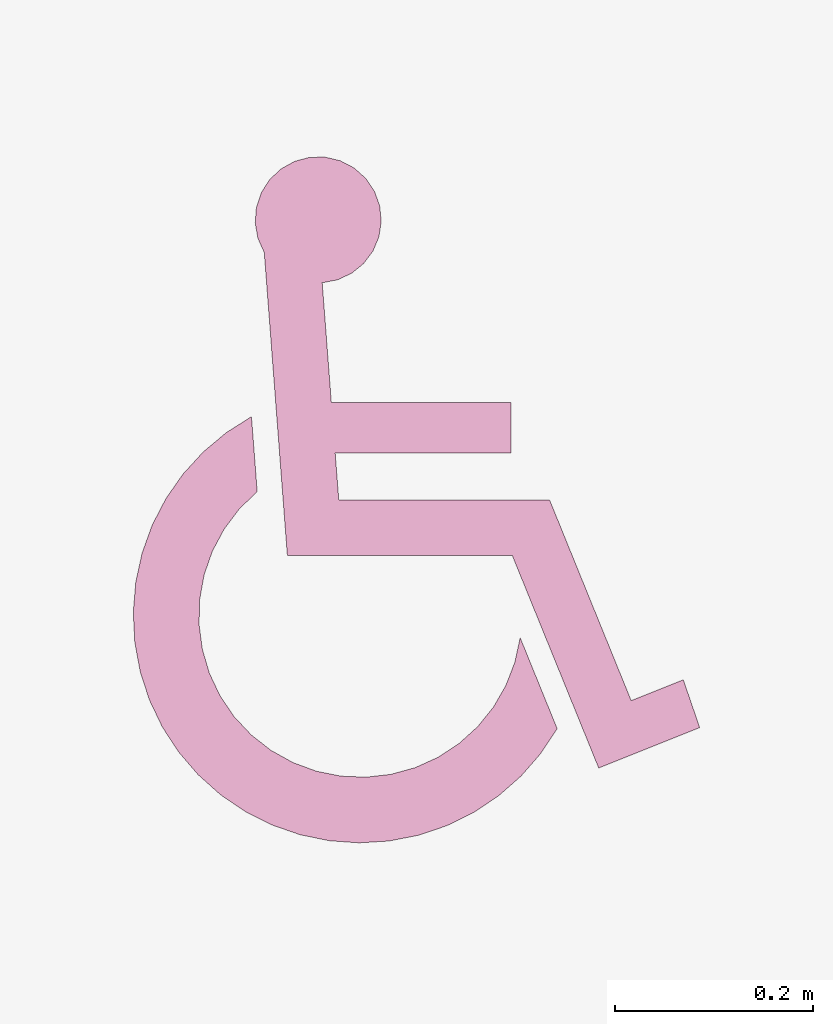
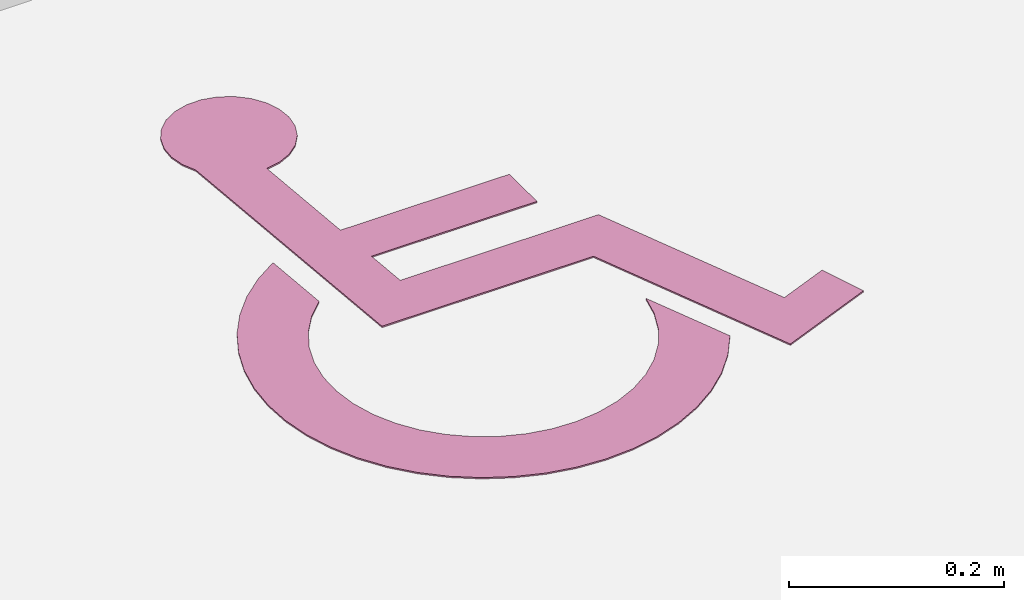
# One storey, part 80 of 81: 1 furnishing.
"""IFC2X3 building model written with IfcOpenShell, lengths in millimetres."""

import ifcopenshell
import ifcopenshell.guid

model = None  # the IFC model being written
_history = None  # IfcOwnerHistory: only IFC2X3 demands one
_inside = {}  # id of a spatial element -> (the spatial element, [elements in it])
_under = {}  # id of a project, library or spatial element -> (it, [spatial elements below it])
_declared = {}  # id of a project -> (the project, [libraries it declares])
_typed = {}  # id of a type object -> (the type object, [elements of that type])
_made_of = {}  # id of a material, layer set ... -> (it, [elements and type objects made of it])


def new_model(schema):
    """Start an empty IFC model of exactly this schema.

    Asked for "IFC4X3", IfcOpenShell would pick the latest addendum, in which some entities
    have other attributes; the version numbers below select the first issue.
    IFC2X3 requires an IfcOwnerHistory on every rooted entity: one is made here for all.
    """
    global model, _history
    if schema == "IFC4X3":
        model = ifcopenshell.file(schema_version=(4, 3, 0, 0))
    else:
        model = ifcopenshell.file(schema=schema)
    _inside.clear()
    _under.clear()
    _declared.clear()
    _typed.clear()
    _made_of.clear()
    _history = None
    if model.schema == "IFC2X3":
        org = make("IfcOrganization", Name="unknown")
        user = make(
            "IfcPersonAndOrganization",
            ThePerson=make("IfcPerson", FamilyName="unknown"),
            TheOrganization=org,
        )
        app = make(
            "IfcApplication",
            ApplicationDeveloper=org,
            Version="unknown",
            ApplicationFullName="unknown",
            ApplicationIdentifier="unknown",
        )
        _history = make(
            "IfcOwnerHistory",
            OwningUser=user,
            OwningApplication=app,
            ChangeAction="ADDED",
            CreationDate=0,
        )
    return model


def make(cls, **values):
    """One entity of the class cls with the attributes given. An attribute that is None is left unset."""
    return model.create_entity(
        cls, **{name: value for name, value in values.items() if value is not None}
    )


def entity(cls, *values):
    """Any entity or typed value of the class cls, its attributes in the order of the schema. None: left unset."""
    e = model.create_entity(cls)
    for i, value in enumerate(values):
        if value is not None:
            e[i] = value
    return e


def rooted(cls, **values):
    """An entity with a GlobalId (a new one), such as an element, a storey or a relation."""
    return make(cls, GlobalId=ifcopenshell.guid.new(), OwnerHistory=_history, **values)


def si_unit(unit_type, name, prefix=None):
    """IfcSIUnit, for example si_unit("LENGTHUNIT", "METRE", prefix="MILLI")."""
    return make("IfcSIUnit", UnitType=unit_type, Prefix=prefix, Name=name)


def converted_unit(unit_type, name, factor, base, dimensions=None, offset=None):
    """IfcConversionBasedUnit, such as the inch: factor (a typed value) times the base unit."""
    return make(
        "IfcConversionBasedUnit"
        if offset is None
        else "IfcConversionBasedUnitWithOffset",
        ConversionOffset=offset,
        Dimensions=None
        if dimensions is None
        else entity("IfcDimensionalExponents", *dimensions),
        UnitType=unit_type,
        Name=name,
        ConversionFactor=make(
            "IfcMeasureWithUnit", ValueComponent=factor, UnitComponent=base
        ),
    )


def derived_unit(unit_type, elements):
    """IfcDerivedUnit: a product of units, each with its exponent."""
    return make(
        "IfcDerivedUnit",
        Elements=[
            make("IfcDerivedUnitElement", Unit=unit, Exponent=power)
            for unit, power in elements
        ],
        UnitType=unit_type,
    )


def assignment(units):
    """IfcUnitAssignment: the units of a project."""
    return None if units is None else make("IfcUnitAssignment", Units=units)


def point(xyz):
    """IfcCartesianPoint."""
    return None if xyz is None else make("IfcCartesianPoint", Coordinates=xyz)


def direction(xyz):
    """IfcDirection."""
    return None if xyz is None else make("IfcDirection", DirectionRatios=xyz)


def frame(location, z_axis=None, x_axis=None):
    """IfcAxis2Placement3D, a coordinate frame: its origin and axes. An axis left out is left unset."""
    return make(
        "IfcAxis2Placement3D",
        Location=point(location),
        Axis=direction(z_axis),
        RefDirection=direction(x_axis),
    )


def frame_2d(location, x_axis=None):
    """IfcAxis2Placement2D, a coordinate frame in the plane: its origin and x axis."""
    return make(
        "IfcAxis2Placement2D", Location=point(location), RefDirection=direction(x_axis)
    )


def origin():
    """The frame at (0, 0, 0) with its axes left unset."""
    return frame((0.0, 0.0, 0.0))


def place(relative_to, where):
    """IfcLocalPlacement: puts the frame where relative to a parent placement (None: the world)."""
    return make(
        "IfcLocalPlacement", PlacementRelTo=relative_to, RelativePlacement=where
    )


def context(
    kind, dimensions, precision=None, world=None, true_north=None, identifier=None
):
    """IfcGeometricRepresentationContext, for example the 3D "Model" context."""
    return make(
        "IfcGeometricRepresentationContext",
        ContextIdentifier=identifier,
        ContextType=kind,
        CoordinateSpaceDimension=dimensions,
        Precision=precision,
        WorldCoordinateSystem=world,
        TrueNorth=true_north,
    )


def subcontext(parent, identifier, kind, view, scale=None):
    """IfcGeometricRepresentationSubContext, for example "Body" below "Model"."""
    return make(
        "IfcGeometricRepresentationSubContext",
        ContextIdentifier=identifier,
        ContextType=kind,
        ParentContext=parent,
        TargetScale=scale,
        TargetView=view,
    )


def project(units=None, contexts=None):
    """IfcProject with its units and contexts."""
    return rooted(
        "IfcProject",
        Name="project",
        RepresentationContexts=contexts,
        UnitsInContext=assignment(units),
    )


def spatial(cls, under=None, at=None, **own):
    """A site, building, storey or space (cls), placed at a placement, below another one or the project."""
    s = rooted(cls, ObjectPlacement=at, **own)
    if under is not None:
        _under.setdefault(under.id(), (under, []))[1].append(s)
    return s


def polyline(points):
    """IfcPolyline through the points."""
    return make("IfcPolyline", Points=[point(p) for p in points])


def circle_curve(where, radius):
    """IfcCircle in the frame where."""
    return make("IfcCircle", Position=where, Radius=radius)


def parameter(value):
    """IfcParameterValue: where a trimmed curve begins or ends, as a parameter of its basis curve."""
    return model.create_entity("IfcParameterValue", value)


def trimmed(basis, trim1, trim2, sense, master):
    """IfcTrimmedCurve: the piece of a basis curve between two trims."""
    return make(
        "IfcTrimmedCurve",
        BasisCurve=basis,
        Trim1=trim1,
        Trim2=trim2,
        SenseAgreement=sense,
        MasterRepresentation=master,
    )


def segment(curve, same_sense, transition):
    """IfcCompositeCurveSegment."""
    return make(
        "IfcCompositeCurveSegment",
        Transition=transition,
        SameSense=same_sense,
        ParentCurve=curve,
    )


def composite_curve(segments, self_intersect=None):
    """IfcCompositeCurve: segments joined end to end."""
    return make("IfcCompositeCurve", Segments=segments, SelfIntersect=self_intersect)


def outline(outer, holes=None, kind="AREA"):
    """IfcArbitraryClosedProfileDef: a profile drawn as a closed curve; with holes, ...WithVoids."""
    if holes is None:
        return make("IfcArbitraryClosedProfileDef", ProfileType=kind, OuterCurve=outer)
    return make(
        "IfcArbitraryProfileDefWithVoids",
        ProfileType=kind,
        OuterCurve=outer,
        InnerCurves=holes,
    )


def extrude(swept, where, along, depth):
    """IfcExtrudedAreaSolid: the profile swept, set in the frame where, extruded along a direction by depth."""
    return make(
        "IfcExtrudedAreaSolid",
        SweptArea=swept,
        Position=where,
        ExtrudedDirection=direction(along),
        Depth=depth,
    )


def shape(context_of_items, identifier, shape_type, items):
    """IfcShapeRepresentation: the items that make up one representation, for example the "Body"."""
    return make(
        "IfcShapeRepresentation",
        ContextOfItems=context_of_items,
        RepresentationIdentifier=identifier,
        RepresentationType=shape_type,
        Items=items,
    )


def source(mapping_origin, context_of_items, identifier, shape_type, items):
    """IfcRepresentationMap: a shape defined once, which mapped items show again and again."""
    return make(
        "IfcRepresentationMap",
        MappingOrigin=mapping_origin,
        MappedRepresentation=shape(context_of_items, identifier, shape_type, items),
    )


def transform(
    local_origin,
    x_axis=None,
    y_axis=None,
    z_axis=None,
    scale=None,
    scale2=None,
    scale3=None,
    uniform=True,
):
    """IfcCartesianTransformationOperator3D, or its non-uniform kind. x_axis, y_axis, z_axis: its Axis1, 2, 3."""
    if uniform:
        return make(
            "IfcCartesianTransformationOperator3D",
            Axis1=direction(x_axis),
            Axis2=direction(y_axis),
            LocalOrigin=point(local_origin),
            Scale=scale,
            Axis3=direction(z_axis),
        )
    return make(
        "IfcCartesianTransformationOperator3DnonUniform",
        Axis1=direction(x_axis),
        Axis2=direction(y_axis),
        LocalOrigin=point(local_origin),
        Scale=scale,
        Axis3=direction(z_axis),
        Scale2=scale2,
        Scale3=scale3,
    )


def mapped(mapping_source, mapping_target):
    """IfcMappedItem: shows the shape of a source again, moved by a transform."""
    return make(
        "IfcMappedItem", MappingSource=mapping_source, MappingTarget=mapping_target
    )


def material(Name=None, Category=None):
    """IfcMaterial."""
    return make("IfcMaterial", Name=Name, Category=Category)


def material_list(materials):
    """IfcMaterialList."""
    return make("IfcMaterialList", Materials=materials)


def made_of(thing, what):
    """Note that an element or type object is made of a material, layer set ...; save() writes the relation."""
    if what is not None:
        _made_of.setdefault(what.id(), (what, []))[1].append(thing)
    return thing


def type_object(cls, material=None, **own):
    """A type object (cls), such as IfcWallType, which elements share."""
    return made_of(rooted(cls, **own), material)


def type_shapes(of_type, sources):
    """Give a type object the sources (RepresentationMaps) that its elements show as mapped items."""
    of_type.RepresentationMaps = sources


def element(
    cls,
    number,
    at=None,
    inside=None,
    cuts=None,
    type_object=None,
    material=None,
    context=None,
    identifier="Body",
    shape_type=None,
    held_by="IfcProductDefinitionShape",
    body=None,
    shapes=None,
    **own,
):
    """One element of the class cls, such as IfcWall. Its Tag is "e" and its number.

    at: its placement. inside: the storey or other place that contains it. cuts: it is an
    opening in that element (IfcRelVoidsElement). A single representation is given by context,
    identifier, shape_type and body (its items); several are given by shapes. held_by: the class
    of the entity that holds the representations. save() writes the other relations.
    """
    e = rooted(cls, Tag="e%d" % number, ObjectPlacement=at, **own)
    if body is not None:
        shapes = [shape(context, identifier, shape_type, body)]
    if shapes is not None:
        e.Representation = make(held_by, Representations=shapes)
    if inside is not None:
        _inside.setdefault(inside.id(), (inside, []))[1].append(e)
    if cuts is not None:
        rooted(
            "IfcRelVoidsElement", RelatingBuildingElement=cuts, RelatedOpeningElement=e
        )
    if type_object is not None:
        _typed.setdefault(type_object.id(), (type_object, []))[1].append(e)
    return made_of(e, material)


def aggregate(whole, parts):
    """IfcRelAggregates: a whole, such as a stair, and the parts it consists of."""
    return rooted("IfcRelAggregates", RelatingObject=whole, RelatedObjects=parts)


def save(model, path):
    """Write the relations noted so far, then the file.

    IfcRelAggregates (storeys below a building ...), IfcRelContainedInSpatialStructure (elements
    in a storey), IfcRelDefinesByType, IfcRelAssociatesMaterial and IfcRelDeclares: one each for
    every whole, place, type object, material and project.
    """
    for whole, parts in _under.values():
        aggregate(whole, parts)
    for where, things in _inside.values():
        rooted(
            "IfcRelContainedInSpatialStructure",
            RelatedElements=things,
            RelatingStructure=where,
        )
    for kind, things in _typed.values():
        rooted("IfcRelDefinesByType", RelatedObjects=things, RelatingType=kind)
    for what, things in _made_of.values():
        rooted("IfcRelAssociatesMaterial", RelatedObjects=things, RelatingMaterial=what)
    for by, libraries in _declared.values():
        rooted("IfcRelDeclares", RelatingContext=by, RelatedDefinitions=libraries)
    model.write(path)


model = new_model("IFC2X3")

# Units and contexts
model_context = context("Model", 3, precision=0.01, world=origin(), true_north=direction((6.123031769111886e-17, 1.0)))
body_context = subcontext(model_context, "Body", "Model", "MODEL_VIEW")
ifc_project = project(units=[si_unit("LENGTHUNIT", "METRE", prefix="MILLI"), si_unit("AREAUNIT", "SQUARE_METRE"), si_unit("VOLUMEUNIT", "CUBIC_METRE"), converted_unit("PLANEANGLEUNIT", "DEGREE", entity("IfcRatioMeasure", 0.017453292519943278), si_unit("PLANEANGLEUNIT", "RADIAN"), dimensions=[0, 0, 0, 0, 0, 0, 0]), si_unit("MASSUNIT", "GRAM", prefix="KILO"), derived_unit("MASSDENSITYUNIT", [(si_unit("MASSUNIT", "GRAM", prefix="KILO"), 1), (si_unit("LENGTHUNIT", "METRE"), -3)]), derived_unit("MOMENTOFINERTIAUNIT", [(si_unit("LENGTHUNIT", "METRE"), 4)]), si_unit("TIMEUNIT", "SECOND"), si_unit("FREQUENCYUNIT", "HERTZ"), si_unit("THERMODYNAMICTEMPERATUREUNIT", "DEGREE_CELSIUS"), derived_unit("THERMALTRANSMITTANCEUNIT", [(si_unit("MASSUNIT", "GRAM", prefix="KILO"), 1), (si_unit("THERMODYNAMICTEMPERATUREUNIT", "KELVIN"), -1), (si_unit("TIMEUNIT", "SECOND"), -3)]), derived_unit("VOLUMETRICFLOWRATEUNIT", [(si_unit("LENGTHUNIT", "METRE"), 3), (si_unit("TIMEUNIT", "SECOND"), -1)]), derived_unit("MASSFLOWRATEUNIT", [(si_unit("MASSUNIT", "GRAM", prefix="KILO"), 1), (si_unit("TIMEUNIT", "SECOND"), -1)]), derived_unit("ROTATIONALFREQUENCYUNIT", [(si_unit("TIMEUNIT", "SECOND"), -1)]), si_unit("ELECTRICCURRENTUNIT", "AMPERE"), si_unit("ELECTRICVOLTAGEUNIT", "VOLT"), si_unit("POWERUNIT", "WATT"), si_unit("FORCEUNIT", "NEWTON", prefix="KILO"), si_unit("ILLUMINANCEUNIT", "LUX"), si_unit("LUMINOUSFLUXUNIT", "LUMEN"), si_unit("LUMINOUSINTENSITYUNIT", "CANDELA"), derived_unit("USERDEFINED", [(si_unit("MASSUNIT", "GRAM", prefix="KILO"), -1), (si_unit("LENGTHUNIT", "METRE"), -2), (si_unit("TIMEUNIT", "SECOND"), 3), (si_unit("LUMINOUSFLUXUNIT", "LUMEN"), 1)]), derived_unit("SOUNDPOWERUNIT", [(si_unit("MASSUNIT", "GRAM", prefix="KILO"), 1), (si_unit("LENGTHUNIT", "METRE"), 2), (si_unit("TIMEUNIT", "SECOND"), -3)]), derived_unit("SOUNDPRESSUREUNIT", [(si_unit("MASSUNIT", "GRAM", prefix="KILO"), 1), (si_unit("LENGTHUNIT", "METRE"), -1), (si_unit("TIMEUNIT", "SECOND"), -2)]), derived_unit("LINEARVELOCITYUNIT", [(si_unit("LENGTHUNIT", "METRE"), 1), (si_unit("TIMEUNIT", "SECOND"), -1)]), si_unit("PRESSUREUNIT", "PASCAL"), derived_unit("USERDEFINED", [(si_unit("LENGTHUNIT", "METRE"), -2), (si_unit("MASSUNIT", "GRAM", prefix="KILO"), 1), (si_unit("TIMEUNIT", "SECOND"), -2)]), derived_unit("LINEARFORCEUNIT", [(si_unit("MASSUNIT", "GRAM", prefix="KILO"), 1), (si_unit("LENGTHUNIT", "METRE"), 1), (si_unit("TIMEUNIT", "SECOND"), -2), (si_unit("LENGTHUNIT", "METRE"), -1)]), derived_unit("PLANARFORCEUNIT", [(si_unit("MASSUNIT", "GRAM", prefix="KILO"), 1), (si_unit("LENGTHUNIT", "METRE"), 1), (si_unit("TIMEUNIT", "SECOND"), -2), (si_unit("LENGTHUNIT", "METRE"), -2)])], contexts=[model_context])

# Site, building, storey, space
site_placement = place(None, frame((-14167.972527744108, -657.2125860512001, 0.0)))
site = spatial("IfcSite", under=ifc_project, at=site_placement, Name="Default", CompositionType="ELEMENT")
building_placement = place(site_placement, origin())
building = spatial("IfcBuilding", under=site, at=building_placement, Name="Sample Building", CompositionType="ELEMENT")
storey_placement = place(building_placement, frame((0.0, 0.0, 13400.0)))
storey = spatial("IfcBuildingStorey", under=building, at=storey_placement, Name="지상 4층", CompositionType="ELEMENT", Elevation=13400.00000000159)
space_placement = place(storey_placement, origin())
space = spatial("IfcSpace", under=storey, at=space_placement, Name="221", CompositionType="ELEMENT", InteriorOrExteriorSpace="INTERNAL")

# Furnishing
ifc_material = material(Name="KBIMS-노면용 페인트_진하늘색")
ifc_material_list = material_list([ifc_material, ifc_material])
furniture_type = type_object("IfcFurnitureType", Name="SE251-장애인전용 표시:SE251-장애인전용 표시", material=ifc_material_list)
shared_shape = source(origin(), body_context, "Body", "SweptSolid", [
    extrude(outline(composite_curve([segment(trimmed(circle_curve(frame_2d((-36.68855283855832, -47.74251805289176), x_axis=(1.0, 0.0)), 229.68578343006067), [parameter(118.63343780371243)], [parameter(330.18087778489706)], True, "PARAMETER"), True, "CONTINUOUS"), segment(polyline([(162.58672770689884, -161.9568852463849), (125.13875807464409, -69.8626552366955)]), True, "CONTINUOUS"), segment(trimmed(circle_curve(frame_2d((-36.68855283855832, -47.74251805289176), x_axis=(1.0, 0.0)), 163.33211266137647), [parameter(129.67752554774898)], [parameter(352.21649007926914)], True, "PARAMETER"), False, "CONTINUOUS"), segment(polyline([(-140.97054841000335, 77.96605136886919), (-146.7549373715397, 153.85348911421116)]), True, "CONTINUOUS")], self_intersect=False)), frame((71.31807136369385, -37.57408412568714, 0.0)), (0.0, 0.0, 1.0), 1.5875),
    extrude(outline(composite_curve([segment(polyline([(-282.31222354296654, -186.97456283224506), (25.012127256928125, -186.974562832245)]), True, "CONTINUOUS"), segment(polyline([(25.012127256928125, -186.974562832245), (42.305091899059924, 39.89793596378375)]), True, "CONTINUOUS"), segment(polyline([(42.30509189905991, 39.89793596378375), (263.5159692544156, 110.7895168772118)]), True, "CONTINUOUS"), segment(polyline([(263.5159692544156, 110.7895168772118), (230.53394569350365, 215.81642815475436)]), True, "CONTINUOUS"), segment(polyline([(230.53394569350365, 215.81642815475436), (181.07321552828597, 202.95741624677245)]), True, "CONTINUOUS"), segment(polyline([(181.07321552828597, 202.95741624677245), (198.08692429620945, 148.77950087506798)]), True, "CONTINUOUS"), segment(polyline([(198.08692429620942, 148.77950087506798), (-10.806586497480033, 81.83527372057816)]), True, "CONTINUOUS"), segment(polyline([(-10.806586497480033, 81.83527372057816), (-27.016565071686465, -130.829149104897)]), True, "CONTINUOUS"), segment(polyline([(-27.01656507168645, -130.829149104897), (-74.51295100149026, -130.82914910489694)]), True, "CONTINUOUS"), segment(polyline([(-74.51295100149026, -130.82914910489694), (-60.984513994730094, 46.65518467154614)]), True, "CONTINUOUS"), segment(polyline([(-60.984513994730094, 46.65518467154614), (-111.87816757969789, 50.53446557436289)]), True, "CONTINUOUS"), segment(polyline([(-111.87816757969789, 50.53446557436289), (-125.70229607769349, -130.82914910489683)]), True, "CONTINUOUS"), segment(polyline([(-125.70229607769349, -130.82914910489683), (-247.3139701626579, -130.8291491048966)]), True, "CONTINUOUS"), segment(trimmed(circle_curve(frame_2d((-311.1107235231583, -130.04222235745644), x_axis=(0.07600280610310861, 0.9971076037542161)), 63.80160650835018), [parameter(273.6521413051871)], [parameter(211.19083029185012)], True, "PARAMETER"), True, "CONTINUOUS")], self_intersect=False)), frame((145.3871253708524, 15.097937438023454, 0.0), z_axis=(0.0, 0.0, 1.0), x_axis=(0.07600280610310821, -0.9971076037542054, 0.0)), (0.0, 0.0, 1.0), 1.5875),
])
type_shapes(furniture_type, [shared_shape])
furnishing_placement = place(space_placement, frame((39107.972527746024, 26227.212300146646, 40.0)))
element("IfcFurnishingElement", 1, at=furnishing_placement, inside=space, type_object=furniture_type, material=ifc_material, Name="SE251-장애인전용 표시:SE251-장애인전용 표시", ObjectType="SE251-장애인전용 표시:SE251-장애인전용 표시", context=body_context, shape_type="MappedRepresentation", body=[
    mapped(shared_shape, transform((0.0, 0.0, 0.0), scale=1.0)),
])

save(model, "model.ifc")
